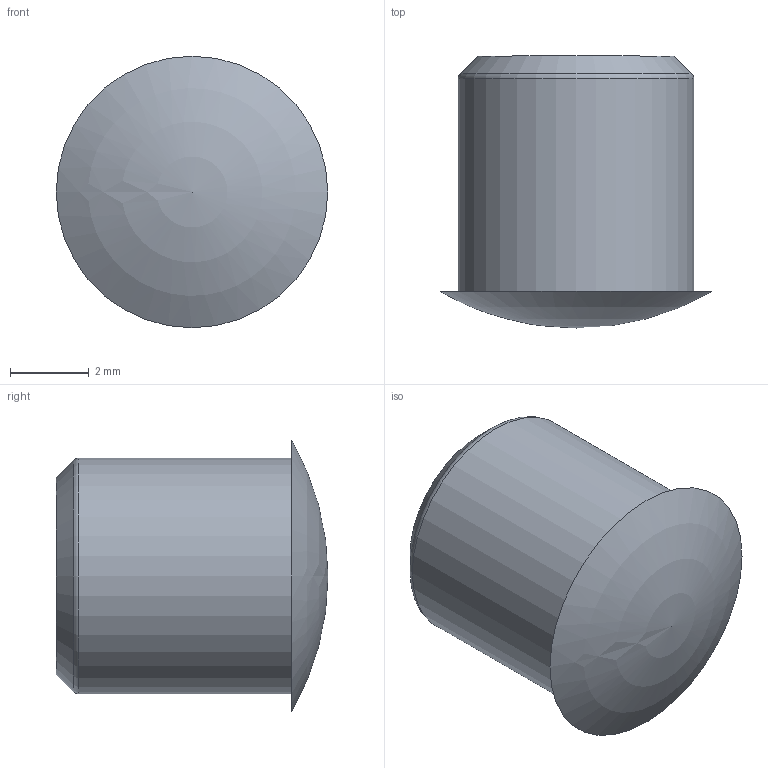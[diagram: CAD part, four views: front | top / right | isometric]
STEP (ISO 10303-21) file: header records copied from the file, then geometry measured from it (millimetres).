
FILE_DESCRIPTION(/* description */ ('STEP AP242 Edition 2','CAx-IF Rec.Pracs.---Representation and Presentation of Product Manufacturing Information (PMI)---4.0---2014-10-13','CAx-IF Rec.Pracs.---3D Tessellated Geometry---0.4---2014-09-14','2;1','CAx-IF Rec.Pracs.---User Defined Attributes---1.5---2016-08-15'),/* implementation_level */ '2;1');
FILE_NAME(/* name */ 'Final Build - pen bottom',/* time_stamp */ '2026-08-31T23:26:25Z',/* author */ (''),/* organization */ (''),/* preprocessor_version */ 'ST-DEVELOPER v20',/* originating_system */ 'ONSHAPE BY PTC INC, 1.220',/* authorisation */ ' ');
FILE_SCHEMA (('AP242_MANAGED_MODEL_BASED_3D_ENGINEERING_MIM_LF { 1 0 10303 442 3 1 4 }'));
Length unit declared in the file: metre
Products named in the file (1): pen bottom
Bounding box: 6.92 x 6.92 x 6.92 mm (x, y, z)
Volume: 68.9 mm3; surface area: 277.9 mm2
Topology: 1 solids, 1 shells, 7 faces, 14 edges, 9 vertices
Faces by surface type: plane 2, cylinder 2, cone 1, sphere 1, torus 1
Full cylindrical faces by diameter (mm): 5 x1, 6 x1
Entity records: 156 total; most frequent: DIRECTION 28, CARTESIAN_POINT 20, AXIS2_PLACEMENT_3D 14, ORIENTED_EDGE 12, EDGE_LOOP 12, FACE_BOUND 12, ADVANCED_FACE 7, EDGE_CURVE 6
